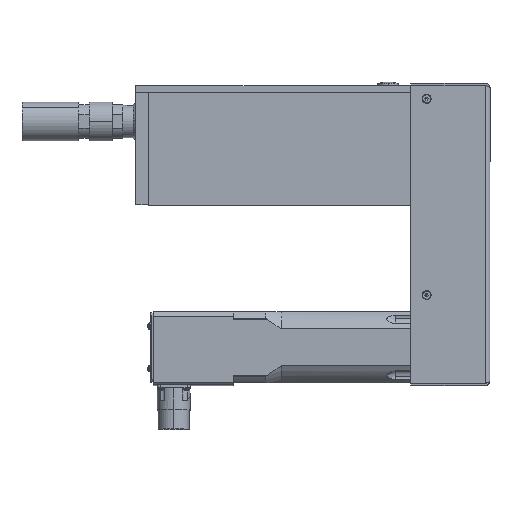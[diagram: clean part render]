
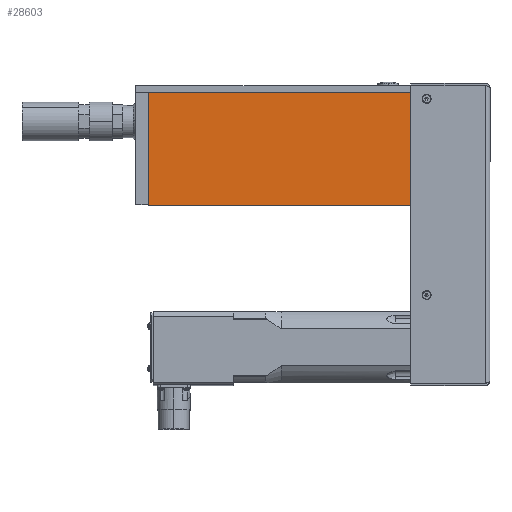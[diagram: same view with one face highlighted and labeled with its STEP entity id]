
A CAD part, top view. The second image highlights one B-rep face of the part: STEP entity #28603.
In plain terms, the highlighted planar face has unit normal (0, 0, 1).
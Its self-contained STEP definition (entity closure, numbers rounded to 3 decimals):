
#931 = LINE ( 'NONE', #21380, #50417 ) ;
#1617 = VERTEX_POINT ( 'NONE', #17100 ) ;
#2715 = CARTESIAN_POINT ( 'NONE',  ( -96.001, 59.379, 45.682 ) ) ;
#4239 = VECTOR ( 'NONE', #58043, 1000. ) ;
#6320 = AXIS2_PLACEMENT_3D ( 'NONE', #2715, #32295, #32948 ) ;
#6536 = ORIENTED_EDGE ( 'NONE', *, *, #30493, .T. ) ;
#13820 = EDGE_LOOP ( 'NONE', ( #38674, #14917, #57146, #6536 ) ) ;
#14917 = ORIENTED_EDGE ( 'NONE', *, *, #61330, .T. ) ;
#17100 = CARTESIAN_POINT ( 'NONE',  ( 106.999, 59.379, 45.682 ) ) ;
#17407 = CARTESIAN_POINT ( 'NONE',  ( -96.001, 59.379, 45.682 ) ) ;
#17590 = PLANE ( 'NONE',  #6320 ) ;
#21185 = LINE ( 'NONE', #24686, #29722 ) ;
#21380 = CARTESIAN_POINT ( 'NONE',  ( 106.999, -28.121, 45.682 ) ) ;
#22189 = LINE ( 'NONE', #58011, #50054 ) ;
#22255 = CARTESIAN_POINT ( 'NONE',  ( -96.001, -28.121, 45.682 ) ) ;
#24686 = CARTESIAN_POINT ( 'NONE',  ( -96.001, 59.379, 45.682 ) ) ;
#28603 = ADVANCED_FACE ( 'NONE', ( #42265 ), #17590, .F. ) ;
#29722 = VECTOR ( 'NONE', #38768, 1000. ) ;
#30493 = EDGE_CURVE ( 'NONE', #1617, #42099, #21185, .T. ) ;
#31442 = EDGE_CURVE ( 'NONE', #63267, #1617, #931, .T. ) ;
#32295 = DIRECTION ( 'NONE',  ( 0., 0., -1. ) ) ;
#32948 = DIRECTION ( 'NONE',  ( -1., 0., 0. ) ) ;
#33820 = CARTESIAN_POINT ( 'NONE',  ( -96.001, -28.121, 45.682 ) ) ;
#38674 = ORIENTED_EDGE ( 'NONE', *, *, #57989, .T. ) ;
#38768 = DIRECTION ( 'NONE',  ( -1., 0., 0. ) ) ;
#42099 = VERTEX_POINT ( 'NONE', #17407 ) ;
#42265 = FACE_OUTER_BOUND ( 'NONE', #13820, .T. ) ;
#46277 = DIRECTION ( 'NONE',  ( 0., 1., 0. ) ) ;
#46526 = VERTEX_POINT ( 'NONE', #22255 ) ;
#48287 = LINE ( 'NONE', #33820, #4239 ) ;
#50054 = VECTOR ( 'NONE', #62542, 1000. ) ;
#50417 = VECTOR ( 'NONE', #46277, 1000. ) ;
#52925 = CARTESIAN_POINT ( 'NONE',  ( 106.999, -28.121, 45.682 ) ) ;
#57146 = ORIENTED_EDGE ( 'NONE', *, *, #31442, .T. ) ;
#57989 = EDGE_CURVE ( 'NONE', #42099, #46526, #22189, .T. ) ;
#58011 = CARTESIAN_POINT ( 'NONE',  ( -96.001, -28.121, 45.682 ) ) ;
#58043 = DIRECTION ( 'NONE',  ( 1., 0., 0. ) ) ;
#61330 = EDGE_CURVE ( 'NONE', #46526, #63267, #48287, .T. ) ;
#62542 = DIRECTION ( 'NONE',  ( 0., -1., 0. ) ) ;
#63267 = VERTEX_POINT ( 'NONE', #52925 ) ;
